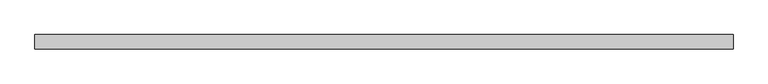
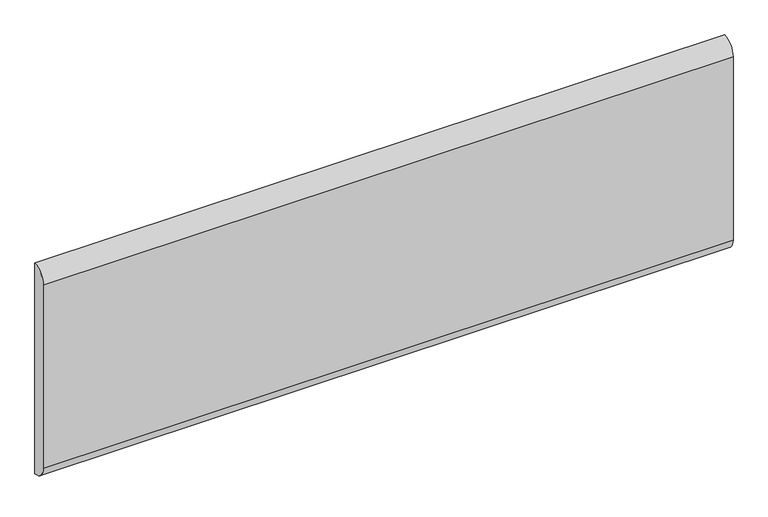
"""IFC4 building model written with IfcOpenShell, lengths in millimetres: furniture geometry."""

from ifc_helpers import new_model, si_unit, point, frame, frame_2d, origin, place, context, project, spatial, polyline, circle_curve, trimmed, segment, composite_curve, outline, extrude, source, transform, mapped, element, save


def furniture_793f8ccc(model_context):
    return source(origin(), model_context, "Body", "SweptSolid", [
        extrude(outline(composite_curve([segment(trimmed(circle_curve(frame_2d((12.7, 787.4)), 25.4), [point((12.7, 762.0))], [point((-12.7, 787.4))], False, "CARTESIAN"), True, "CONTINUOUS"), segment(polyline([(-12.7, 787.4), (-12.7, 1130.3)]), True, "CONTINUOUS"), segment(trimmed(circle_curve(frame_2d((12.7, 1130.3)), 25.4), [point((-12.7, 1130.3))], [point((12.7, 1155.7))], False, "CARTESIAN"), True, "CONTINUOUS"), segment(polyline([(12.7, 1155.7), (12.7, 762.0)]), True, "CONTINUOUS")], self_intersect=False)), frame((-609.6, 0.0, 0.0), z_axis=(1.0, 0.0, 0.0), x_axis=(0.0, 1.0, 0.0)), (0.0, 0.0, 1.0), 1219.2),
    ])


if __name__ == "__main__":
    model = new_model("IFC4")
    model_context = context("Model", 3, world=origin())
    ifc_project = project(units=[si_unit("LENGTHUNIT", "METRE", prefix="MILLI")], contexts=[model_context])
    site = spatial("IfcSite", under=ifc_project)
    building = spatial("IfcBuilding", under=site)
    placement = place(None, origin())
    furniture_shape = furniture_793f8ccc(model_context)
    element("IfcFurniture", 1, ObjectType="HermanMiller_ActionOffice_A3410_B-StyleTackboard : 16\"H x 48\"W", at=placement, inside=building, context=model_context, shape_type="MappedRepresentation", body=[
        mapped(furniture_shape, transform((0.0, 0.0, 0.0), x_axis=(1.0, 0.0, 0.0), y_axis=(0.0, 1.0, 0.0), z_axis=(0.0, 0.0, 1.0))),
    ])
    save(model, "model.ifc")
